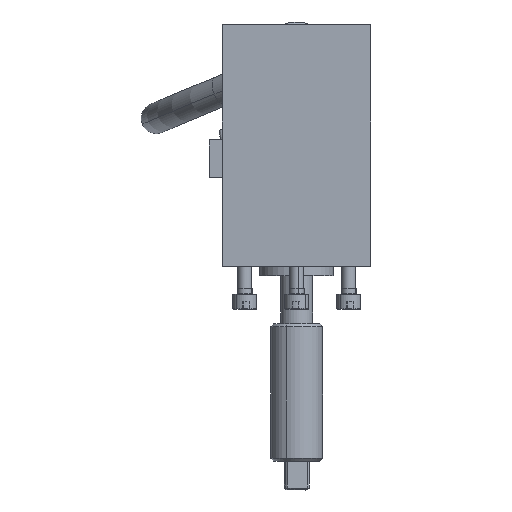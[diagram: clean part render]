
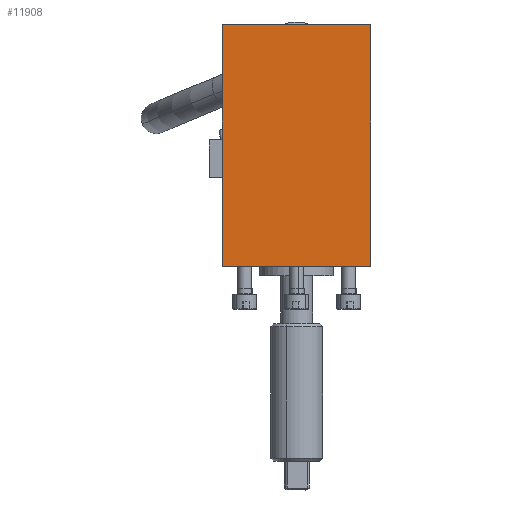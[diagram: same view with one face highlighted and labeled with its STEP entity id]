
A CAD part, top view. The second image highlights one B-rep face of the part: STEP entity #11908.
In plain terms, the highlighted planar face has unit normal (0, 0, 1).
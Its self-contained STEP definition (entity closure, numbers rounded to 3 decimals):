
#11771=CARTESIAN_POINT('Vertex',(40.,-58.2,568.1)) ;
#11776=CARTESIAN_POINT('Line Origine',(0.,-58.2,568.1)) ;
#11780=CARTESIAN_POINT('Vertex',(-40.,-58.2,568.1)) ;
#11878=CARTESIAN_POINT('Axis2P3D Location',(-40.,72.,568.1)) ;
#11883=CARTESIAN_POINT('Line Origine',(40.,6.9,568.1)) ;
#11887=CARTESIAN_POINT('Vertex',(40.,72.,568.1)) ;
#11890=CARTESIAN_POINT('Line Origine',(0.,72.,568.1)) ;
#11894=CARTESIAN_POINT('Vertex',(-40.,72.,568.1)) ;
#11897=CARTESIAN_POINT('Line Origine',(-40.,6.9,568.1)) ;
#11777=DIRECTION('Vector Direction',(1.,0.,0.)) ;
#11879=DIRECTION('Axis2P3D Direction',(0.,0.,-1.)) ;
#11880=DIRECTION('Axis2P3D XDirection',(1.,0.,0.)) ;
#11884=DIRECTION('Vector Direction',(0.,-1.,0.)) ;
#11891=DIRECTION('Vector Direction',(1.,0.,0.)) ;
#11898=DIRECTION('Vector Direction',(0.,-1.,0.)) ;
#11881=AXIS2_PLACEMENT_3D('Plane Axis2P3D',#11878,#11879,#11880) ;
#11903=ORIENTED_EDGE('',*,*,#11782,.T.) ;
#11904=ORIENTED_EDGE('',*,*,#11889,.F.) ;
#11905=ORIENTED_EDGE('',*,*,#11896,.F.) ;
#11906=ORIENTED_EDGE('',*,*,#11901,.T.) ;
#11778=VECTOR('Line Direction',#11777,1.) ;
#11885=VECTOR('Line Direction',#11884,1.) ;
#11892=VECTOR('Line Direction',#11891,1.) ;
#11899=VECTOR('Line Direction',#11898,1.) ;
#11908=ADVANCED_FACE('',(#11907),#11882,.F.) ;
#11782=EDGE_CURVE('',#11781,#11772,#11779,.T.) ;
#11889=EDGE_CURVE('',#11888,#11772,#11886,.T.) ;
#11896=EDGE_CURVE('',#11895,#11888,#11893,.T.) ;
#11901=EDGE_CURVE('',#11895,#11781,#11900,.T.) ;
#11902=EDGE_LOOP('',(#11903,#11904,#11905,#11906)) ;
#11907=FACE_OUTER_BOUND('',#11902,.T.) ;
#11779=LINE('Line',#11776,#11778) ;
#11886=LINE('Line',#11883,#11885) ;
#11893=LINE('Line',#11890,#11892) ;
#11900=LINE('Line',#11897,#11899) ;
#11882=PLANE('Plane',#11881) ;
#11772=VERTEX_POINT('',#11771) ;
#11781=VERTEX_POINT('',#11780) ;
#11888=VERTEX_POINT('',#11887) ;
#11895=VERTEX_POINT('',#11894) ;
